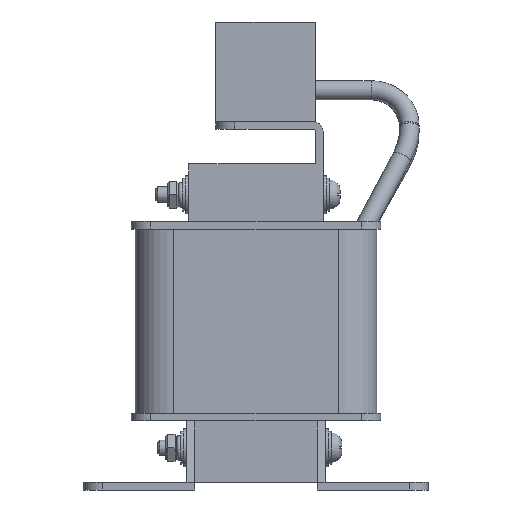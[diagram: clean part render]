
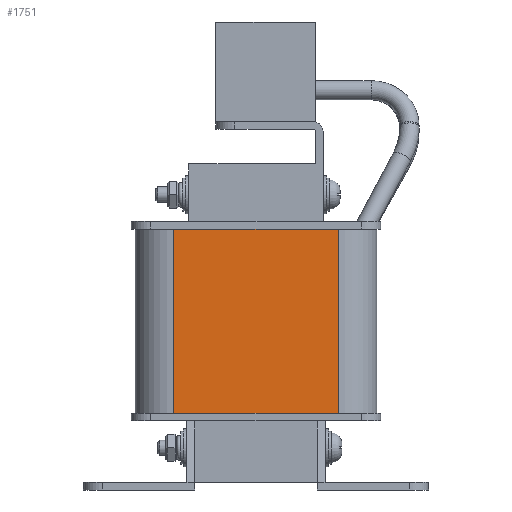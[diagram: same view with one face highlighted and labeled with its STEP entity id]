
A CAD part, left-side view. The second image highlights one B-rep face of the part: STEP entity #1751.
In plain terms, the highlighted planar face has unit normal (-1, 0, 0).
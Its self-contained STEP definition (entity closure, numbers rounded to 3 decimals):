
#1751=ADVANCED_FACE('',(#2273),#2275,.T.);
#2273=FACE_BOUND('',#2274,.T.);
#2274=EDGE_LOOP('',(#3805,#3806,#3807,#3808));
#2275=PLANE('',#2276);
#2276=AXIS2_PLACEMENT_3D('',#2277,#2278,#2279);
#2277=CARTESIAN_POINT('',(-17.5,21.5,0.));
#2278=DIRECTION('',(-1.,0.,0.));
#2279=DIRECTION('',(0.,-1.,0.));
#3805=ORIENTED_EDGE('',*,*,#4546,.T.);
#3806=ORIENTED_EDGE('',*,*,#4547,.T.);
#3807=ORIENTED_EDGE('',*,*,#4548,.F.);
#3808=ORIENTED_EDGE('',*,*,#4544,.F.);
#4544=EDGE_CURVE('',#5042,#5044,#5045,.T.);
#4546=EDGE_CURVE('',#5042,#5047,#5048,.T.);
#4547=EDGE_CURVE('',#5047,#5049,#5050,.T.);
#4548=EDGE_CURVE('',#5044,#5049,#5051,.T.);
#5042=VERTEX_POINT('',#6020);
#5044=VERTEX_POINT('',#6025);
#5045=LINE('',#6026,#6027);
#5047=VERTEX_POINT('',#6033);
#5048=LINE('',#6034,#6035);
#5049=VERTEX_POINT('',#6037);
#5050=LINE('',#6038,#6039);
#5051=LINE('',#6041,#6042);
#6020=CARTESIAN_POINT('',(-17.5,21.5,0.));
#6025=CARTESIAN_POINT('',(-17.5,21.5,48.));
#6026=CARTESIAN_POINT('',(-17.5,21.5,0.));
#6027=VECTOR('',#6028,1.);
#6028=DIRECTION('',(0.,0.,1.));
#6033=CARTESIAN_POINT('',(-17.5,-21.5,0.));
#6034=CARTESIAN_POINT('',(-17.5,21.5,0.));
#6035=VECTOR('',#6036,1.);
#6036=DIRECTION('',(0.,-1.,0.));
#6037=CARTESIAN_POINT('',(-17.5,-21.5,48.));
#6038=CARTESIAN_POINT('',(-17.5,-21.5,0.));
#6039=VECTOR('',#6040,1.);
#6040=DIRECTION('',(0.,0.,1.));
#6041=CARTESIAN_POINT('',(-17.5,21.5,48.));
#6042=VECTOR('',#6043,1.);
#6043=DIRECTION('',(0.,-1.,0.));
